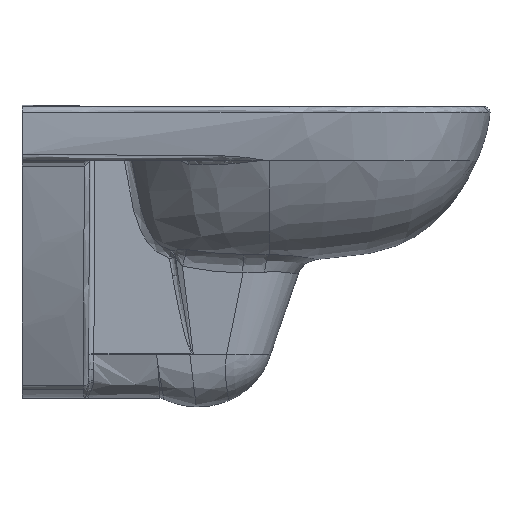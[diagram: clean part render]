
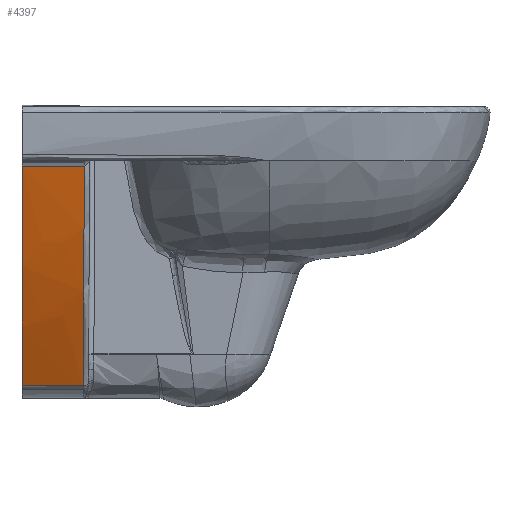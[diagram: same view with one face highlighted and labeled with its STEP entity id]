
A CAD part, left-side view. The second image highlights one B-rep face of the part: STEP entity #4397.
In plain terms, the highlighted free-form (B-spline) face has degree [3, 3] with [4, 4] control points.
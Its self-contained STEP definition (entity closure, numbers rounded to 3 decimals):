
#641=FACE_OUTER_BOUND('',#908,.T.);
#908=EDGE_LOOP('',(#3773,#3774,#3775,#3776));
#989=LINE('',#68349,#1067);
#990=LINE('',#68398,#1068);
#1067=VECTOR('',#5153,69.162);
#1068=VECTOR('',#5156,70.641);
#1081=B_SPLINE_CURVE_WITH_KNOTS('',3,(#6651,#6652,#6653,#6654,#6655,#6656,
#6657),.UNSPECIFIED.,.F.,.F.,(4,3,4),(0.,0.833,
1.),.UNSPECIFIED.);
#1450=B_SPLINE_CURVE_WITH_KNOTS('',3,(#68378,#68379,#68380,#68381,#68382,
#68383,#68384,#68385,#68386,#68387,#68388,#68389,#68390,#68391,#68392,#68393,
#68394,#68395,#68396),.UNSPECIFIED.,.F.,.F.,(4,3,3,3,3,3,4),(0.,
0.184,0.368,0.553,0.738,
0.922,1.),.UNSPECIFIED.);
#1472=VERTEX_POINT('',#6648);
#1473=VERTEX_POINT('',#6650);
#1838=VERTEX_POINT('',#66739);
#1840=VERTEX_POINT('',#66994);
#1872=EDGE_CURVE('',#1473,#1472,#1081,.T.);
#2487=EDGE_CURVE('',#1472,#1838,#989,.T.);
#2488=EDGE_CURVE('',#1838,#1840,#1450,.T.);
#2489=EDGE_CURVE('',#1840,#1473,#990,.T.);
#3773=ORIENTED_EDGE('',*,*,#2489,.T.);
#3774=ORIENTED_EDGE('',*,*,#1872,.T.);
#3775=ORIENTED_EDGE('',*,*,#2487,.T.);
#3776=ORIENTED_EDGE('',*,*,#2488,.T.);
#3874=B_SPLINE_SURFACE_WITH_KNOTS('',3,3,((#68399,#68400,#68401,#68402),
(#68403,#68404,#68405,#68406),(#68407,#68408,#68409,#68410),(#68411,#68412,
#68413,#68414)),.UNSPECIFIED.,.F.,.F.,.F.,(4,4),(4,4),(0.,1.),(0.,1.),
 .UNSPECIFIED.);
#4397=ADVANCED_FACE('',(#641),#3874,.T.);
#5153=DIRECTION('',(1.,0.,0.));
#5156=DIRECTION('',(-1.,0.,0.));
#6648=CARTESIAN_POINT('',(0.,-50.555,-317.623));
#6650=CARTESIAN_POINT('',(0.,-143.332,-69.249));
#6651=CARTESIAN_POINT('Ctrl Pts',(0.,-143.332,
-69.249));
#6652=CARTESIAN_POINT('Ctrl Pts',(0.,-127.186,
-141.368));
#6653=CARTESIAN_POINT('Ctrl Pts',(0.,-102.84,
-211.636));
#6654=CARTESIAN_POINT('Ctrl Pts',(0.,-70.738,
-278.174));
#6655=CARTESIAN_POINT('Ctrl Pts',(0.,-64.319,
-291.478));
#6656=CARTESIAN_POINT('Ctrl Pts',(0.,-57.591,
-304.633));
#6657=CARTESIAN_POINT('Ctrl Pts',(0.,-50.555,
-317.623));
#66739=CARTESIAN_POINT('',(69.162,-50.555,-317.647));
#66994=CARTESIAN_POINT('',(70.641,-143.332,-69.249));
#68349=CARTESIAN_POINT('',(0.,-50.555,-317.623));
#68378=CARTESIAN_POINT('Ctrl Pts',(69.162,-50.555,-317.648));
#68379=CARTESIAN_POINT('Ctrl Pts',(69.247,-58.305,-303.338));
#68380=CARTESIAN_POINT('Ctrl Pts',(69.333,-65.683,-288.829));
#68381=CARTESIAN_POINT('Ctrl Pts',(69.421,-72.683,-274.14));
#68382=CARTESIAN_POINT('Ctrl Pts',(69.509,-79.723,-259.371));
#68383=CARTESIAN_POINT('Ctrl Pts',(69.598,-86.381,-244.421));
#68384=CARTESIAN_POINT('Ctrl Pts',(69.688,-92.653,-229.31));
#68385=CARTESIAN_POINT('Ctrl Pts',(69.778,-98.946,-214.151));
#68386=CARTESIAN_POINT('Ctrl Pts',(69.869,-104.851,-198.83));
#68387=CARTESIAN_POINT('Ctrl Pts',(69.961,-110.362,-183.369));
#68388=CARTESIAN_POINT('Ctrl Pts',(70.053,-115.868,-167.923));
#68389=CARTESIAN_POINT('Ctrl Pts',(70.146,-120.981,-152.338));
#68390=CARTESIAN_POINT('Ctrl Pts',(70.24,-125.697,-136.633));
#68391=CARTESIAN_POINT('Ctrl Pts',(70.333,-130.388,-121.012));
#68392=CARTESIAN_POINT('Ctrl Pts',(70.426,-134.687,-105.273));
#68393=CARTESIAN_POINT('Ctrl Pts',(70.521,-138.587,-89.436));
#68394=CARTESIAN_POINT('Ctrl Pts',(70.561,-140.241,-82.724));
#68395=CARTESIAN_POINT('Ctrl Pts',(70.601,-141.822,-75.995));
#68396=CARTESIAN_POINT('Ctrl Pts',(70.641,-143.333,-69.249));
#68398=CARTESIAN_POINT('',(70.641,-143.333,-69.249));
#68399=CARTESIAN_POINT('Ctrl Pts',(0.,-50.555,
-317.623));
#68400=CARTESIAN_POINT('Ctrl Pts',(0.,-92.777,
-239.66));
#68401=CARTESIAN_POINT('Ctrl Pts',(0.,-123.958,
-155.787));
#68402=CARTESIAN_POINT('Ctrl Pts',(0.,-143.333,
-69.247));
#68403=CARTESIAN_POINT('Ctrl Pts',(23.547,-50.555,-317.632));
#68404=CARTESIAN_POINT('Ctrl Pts',(23.547,-92.777,-239.668));
#68405=CARTESIAN_POINT('Ctrl Pts',(23.547,-123.958,-155.79));
#68406=CARTESIAN_POINT('Ctrl Pts',(23.547,-143.333,-69.248));
#68407=CARTESIAN_POINT('Ctrl Pts',(47.094,-50.555,-317.64));
#68408=CARTESIAN_POINT('Ctrl Pts',(47.094,-92.777,-239.676));
#68409=CARTESIAN_POINT('Ctrl Pts',(47.094,-123.958,-155.792));
#68410=CARTESIAN_POINT('Ctrl Pts',(47.094,-143.333,-69.249));
#68411=CARTESIAN_POINT('Ctrl Pts',(70.641,-50.555,-317.648));
#68412=CARTESIAN_POINT('Ctrl Pts',(70.641,-92.777,-239.685));
#68413=CARTESIAN_POINT('Ctrl Pts',(70.641,-123.958,-155.795));
#68414=CARTESIAN_POINT('Ctrl Pts',(70.641,-143.333,-69.249));
